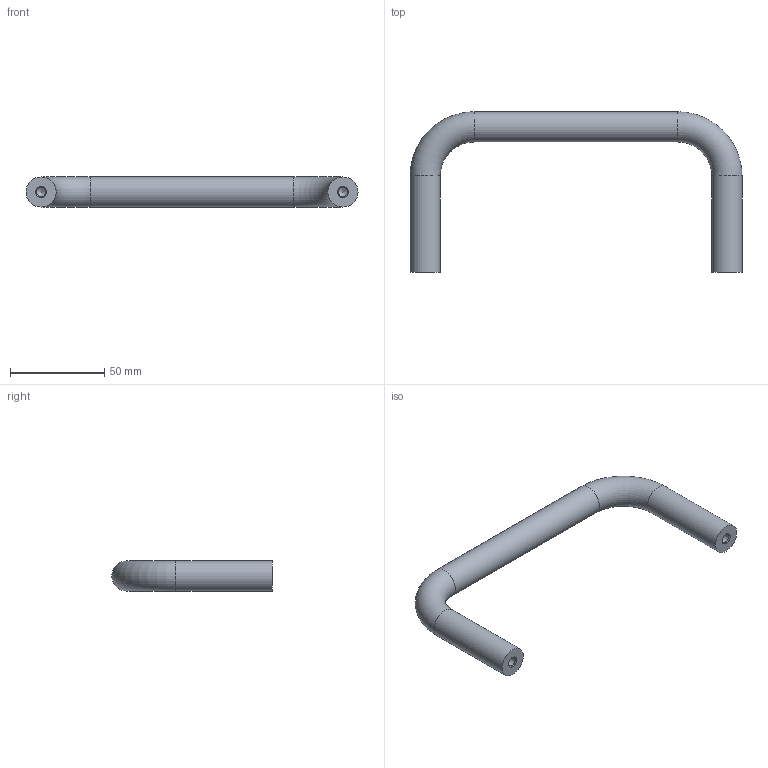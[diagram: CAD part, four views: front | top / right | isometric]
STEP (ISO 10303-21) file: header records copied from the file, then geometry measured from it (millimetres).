
FILE_DESCRIPTION(/* description */ ('STEP AP214'),/* implementation_level */ '2;1');
FILE_NAME(/* name */ 'Cabinet U-Handle_ Stainless Steel GN 435-NI-16-160-85-GS',/* time_stamp */ '2023-12-15T08:44:01+01:00',/* author */ ('License CC BY-ND 4.0'),/* organization */ ('CADENAS'),/* preprocessor_version */ 'ST-DEVELOPER v19.3',/* originating_system */ 'PARTsolutions',/* authorisation */ ' ');
FILE_SCHEMA (('AUTOMOTIVE_DESIGN {1 0 10303 214 3 1 1}'));
Length unit declared in the file: millimetre
Products named in the file (1): Cabinet U-Handle, Stainless Steel GN 435-NI-16-160-85-GS
Bounding box: 176 x 85 x 16 mm (x, y, z)
Volume: 58014.8 mm3; surface area: 15555.2 mm2
Topology: 1 solids, 1 shells, 13 faces, 30 edges, 19 vertices
Faces by surface type: cylinder 5, cone 4, plane 2, torus 2
Full cylindrical faces by diameter (mm): 4.917 x2, 16 x3
Entity records: 292 total; most frequent: DIRECTION 52, CARTESIAN_POINT 40, FACE_BOUND 26, AXIS2_PLACEMENT_3D 26, ORIENTED_EDGE 24, EDGE_LOOP 24, VERTEX_POINT 14, ADVANCED_FACE 13
